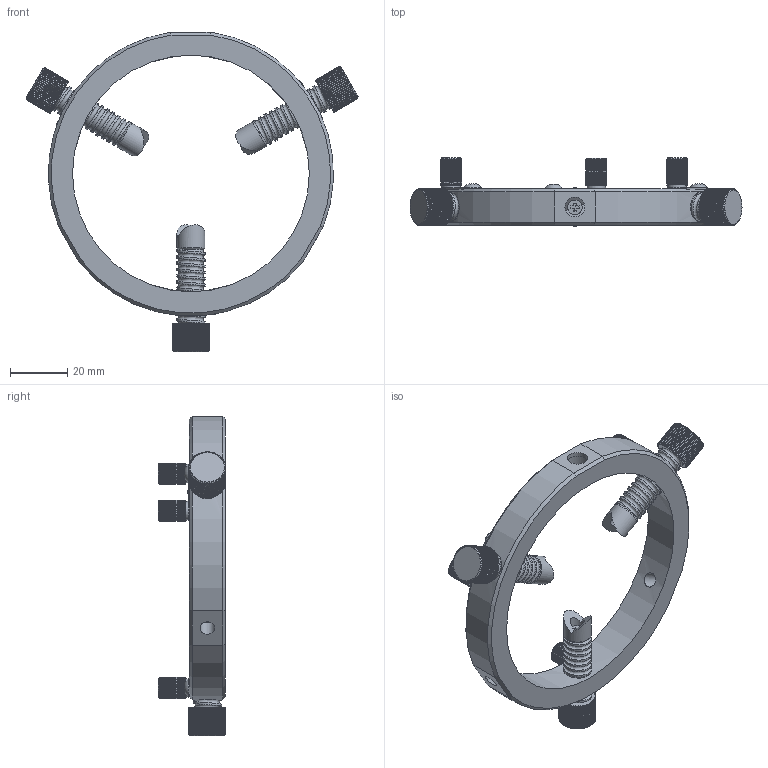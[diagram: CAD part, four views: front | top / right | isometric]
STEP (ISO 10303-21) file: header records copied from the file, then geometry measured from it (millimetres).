
FILE_DESCRIPTION (( 'STEP AP203' ), '1' );
FILE_NAME ('M-ARC-3.step', '2017-01-11T09:45:15', ( '¦K¬P' ), ( '' ), 'SwSTEP 2.0', 'SolidWorks 2012', '' );
FILE_SCHEMA (( 'CONFIG_CONTROL_DESIGN' ));
Products named in the file (1): M-ARC-3
Bounding box: 116.41 x 23.75 x 112 mm (x, y, z)
Surface area: 21410.9 mm2 (no closed solid volume)
Topology: 0 solids, 22 shells, 948 faces, 2936 edges, 1969 vertices
Faces by surface type: plane 621, cylinder 303, cone 12, torus 6, bspline 3, sphere 3
Full cylindrical faces by diameter (mm): 2 x3, 5 x1, 5.1 x3, 5.105 x1, 6.5 x3, 7 x1, 9.8 x3, 10 x4, 83 x1
Entity records: 41242 total; most frequent: CARTESIAN_POINT 15964, ORIENTED_EDGE 5473, DIRECTION 4817, EDGE_CURVE 2885, VERTEX_POINT 1954, AXIS2_PLACEMENT_3D 1616, VECTOR 1585, LINE 1585
